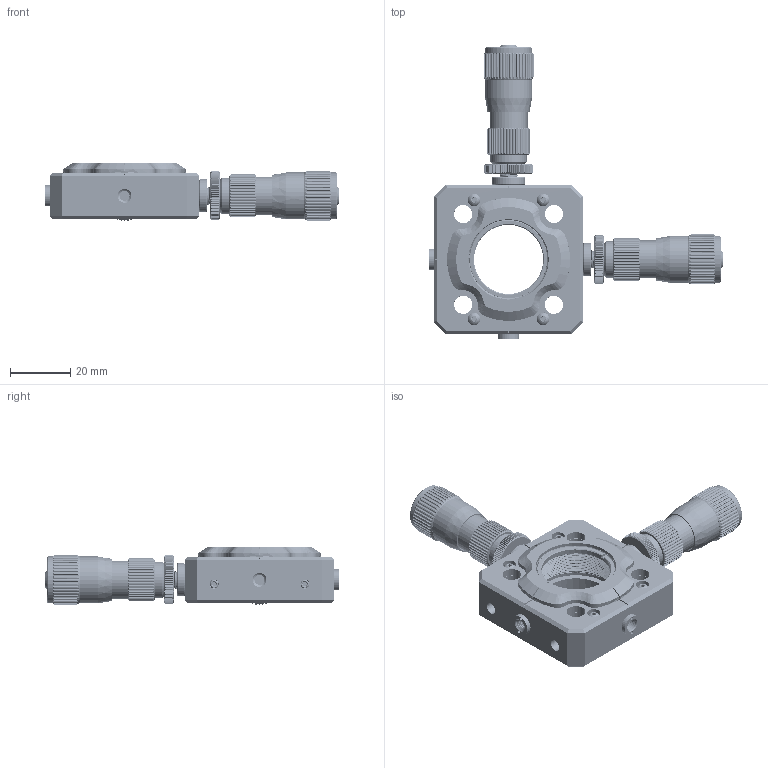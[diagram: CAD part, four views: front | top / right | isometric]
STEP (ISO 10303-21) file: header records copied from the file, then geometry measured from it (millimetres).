
FILE_DESCRIPTION((''),'2;1');
FILE_NAME('CXY1-PM_ASM','2025-04-03T10:18:30',('R&D'),(''),'CREO PARAMETRIC BY PTC INC, 2021063','CREO PARAMETRIC BY PTC INC, 2021063','');
FILE_SCHEMA(('CONFIG_CONTROL_DESIGN'));
Products named in the file (48): M3X3_HS; BALL_3; CXY1-M_A1; M3X3_HS_2; CXY1-M_A2; SPACER_6X1; CSK3; BALL_3_1; M4X3_HS; M3X3_HS_3; M4X3_HS_2; SPRING_3X3; SPRING_3X3_2; SPRING_3X3_3; CXY1-M_A3; SPACER_6X1_2; SPRING_3X3_4; SPRING_10_3X6; M2_5X6_PM; BALL_3_3; M3X3_HS_4; BALL_3_4; CXY1-M_A4; M4X3_HS_3; M4X3_HS_4; SPRING_10_3X6_2; CXY1-M_A5; CXY1-M1_ASM; CXY1_1_ASM; 18988-001-1-SOLID1_PM; BH2S250-1-3-SOLID1; 21651-004-5-SOLID1; CXY1-M_A9; PSM8_A5; WFC-0001-A2; WFC-0001-A3; WFC-0001-A4; WFC-0001-A5; WFC-0001-A7; WFC-0001-A8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
Assembly tree (52 placements, depth 4):
  CXY1-PM_ASM
    CXY1_1_ASM
      CXY1-M1_ASM
        M3X3_HS
        BALL_3
        CXY1-M_A1
        M3X3_HS_2
        CXY1-M_A2
        SPACER_6X1
        CSK3
        BALL_3_1
        M4X3_HS
        M3X3_HS_3
        M4X3_HS_2
        SPRING_3X3
        SPRING_3X3_2
        SPRING_3X3_3
        CXY1-M_A3
        SPACER_6X1_2
        SPRING_3X3_4
        SPRING_10_3X6
        M2_5X6_PM
        BALL_3_3
        M3X3_HS_4
        BALL_3_4
        CXY1-M_A4
        M4X3_HS_3
        M4X3_HS_4
        SPRING_10_3X6_2
        CXY1-M_A5
    18988-001-1-SOLID1_PM  x2
    BH2S250-1-3-SOLID1  x3
    21651-004-5-SOLID1
    CXY1-M_A9  x2
    PSM8A_ASM  x2
      PSM8_A5
      WFC-0001_ASM
        WFC-0001-A2
        WFC-0001-A3
        WFC-0001-A4
        WFC-0001-A5
        WFC-0001-A7
        WFC-0001-A8
        WFC-0001-A9
        WFC-0001-B1
        WFC-0001-B2
        WFC-0001-A1
        WFC-0001-A6
Bounding box: 97.14 x 97.14 x 19.08 mm (x, y, z)
Volume: 38033.5 mm3; surface area: 41536.8 mm2
Topology: 55 solids, 55 shells, 3384 faces, 9119 edges, 5907 vertices
Faces by surface type: cylinder 1690, plane 861, bspline 529, cone 266, sphere 30, torus 8
Entity records: 181082 total; most frequent: CARTESIAN_POINT 128956, ORIENTED_EDGE 11860, DIRECTION 8868, EDGE_CURVE 5930, VERTEX_POINT 3856, AXIS2_PLACEMENT_3D 3272, EDGE_LOOP 2398, B_SPLINE_CURVE_WITH_KNOTS 2343
